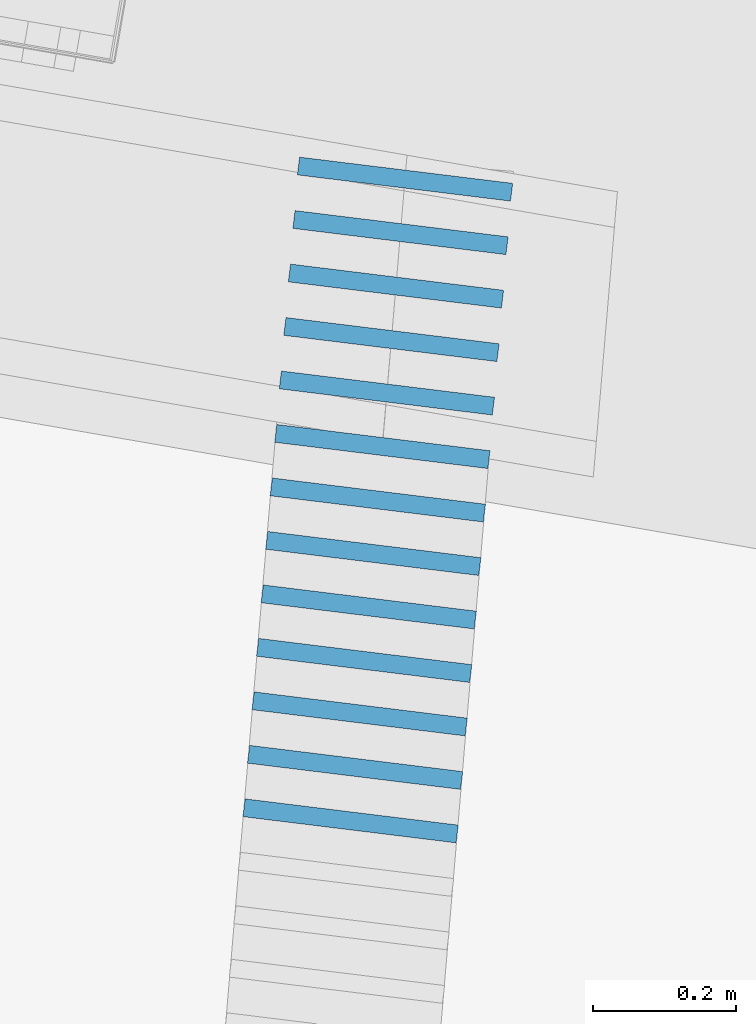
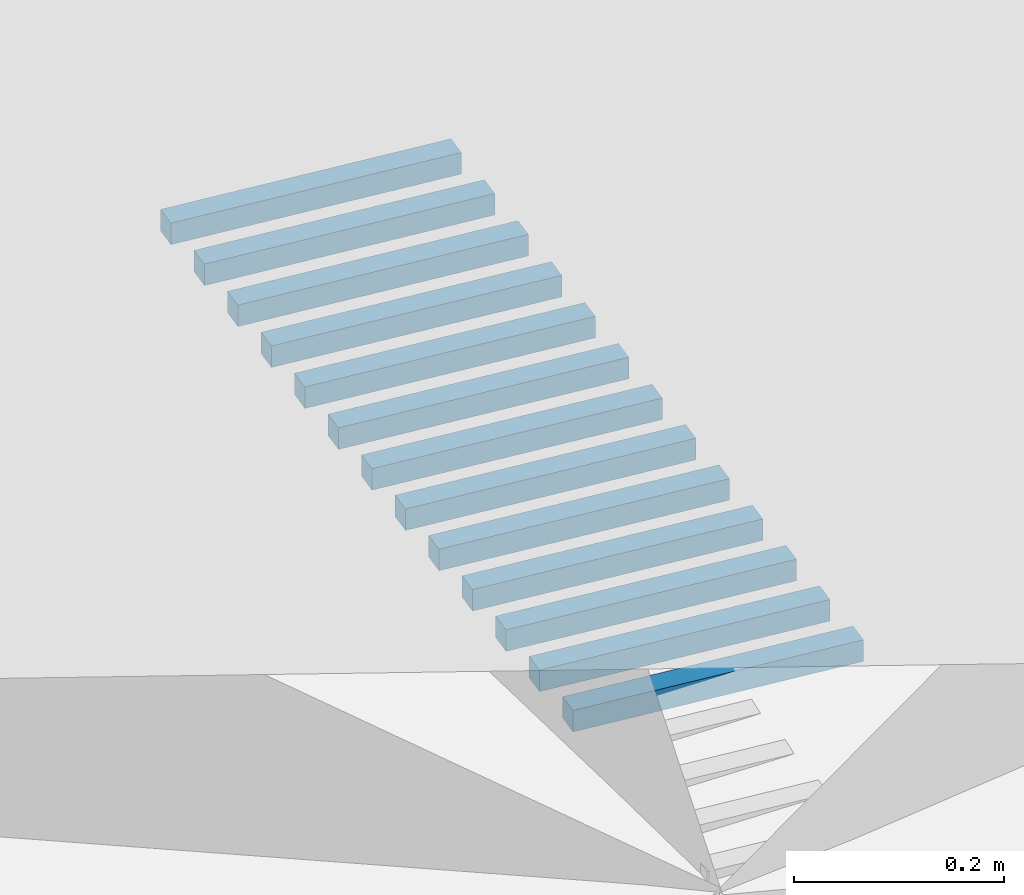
# Not in any storey, part 4 of 46: 13 members.
"""IFC4 model written with IfcOpenShell, lengths in metres."""

from ifc_helpers import new_model, si_unit, direction, frame, origin_with_axes, place, context, subcontext, project, spatial, rectangle, extrude, material, material_profile, profile_set, profile_usage, type_object, element, save


model = new_model("IFC4")

# Units and contexts
model_context = context("Model", 3, precision=1e-05, world=origin_with_axes(), true_north=direction((0.0, 1.0)))
body_context = subcontext(model_context, "Body", "Model", "MODEL_VIEW")
ifc_project = project(units=[si_unit("VOLUMEUNIT", "CUBIC_METRE"), si_unit("LENGTHUNIT", "METRE"), si_unit("AREAUNIT", "SQUARE_METRE")], contexts=[model_context])

# Site
site_placement = place(None, origin_with_axes())
site = spatial("IfcSite", under=ifc_project, at=site_placement, Name="Lares · Rua das Mercês · artigo 4771")

# Members
ifc_material = material(Name="Aço galvanizado / Stahl verzinkt", Category="steel")
ifc_material_profile = material_profile(ifc_material, rectangle(XDim=0.025, YDim=0.025))
ifc_profile_set = profile_set([ifc_material_profile], Name="R0.025")
ifc_profile_usage_1 = profile_usage(ifc_profile_set)
member_type = type_object("IfcMemberType", Name="R0.025 / galvanized", PredefinedType="NOTDEFINED", material=ifc_profile_set)
member_1_placement = place(site_placement, frame((82.7192237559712, 5.17432462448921, 16.1922898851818), z_axis=(0.992517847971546, -0.122099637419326, 0.0), x_axis=(-0.122099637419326, -0.992517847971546, 0.0)))
element("IfcMember", 1, at=member_1_placement, inside=site, type_object=member_type, material=ifc_profile_usage_1, Name="Interceção · grelha rua", context=body_context, shape_type="SweptSolid", body=[
    extrude(rectangle(XDim=0.025, YDim=0.025), origin_with_axes(), (0.0, 0.0, 1.0), 0.299999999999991),
])
ifc_profile_usage_2 = profile_usage(ifc_profile_set)
member_2_placement = place(site_placement, frame((82.7255676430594, 5.24905584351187, 16.1915398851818), z_axis=(0.992517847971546, -0.122099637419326, 0.0), x_axis=(-0.122099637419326, -0.992517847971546, 0.0)))
element("IfcMember", 2, at=member_2_placement, inside=site, type_object=member_type, material=ifc_profile_usage_2, Name="Interceção · grelha rua", context=body_context, shape_type="SweptSolid", body=[
    extrude(rectangle(XDim=0.025, YDim=0.025), origin_with_axes(), (0.0, 0.0, 1.0), 0.299999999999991),
])
ifc_profile_usage_3 = profile_usage(ifc_profile_set)
member_3_placement = place(site_placement, frame((82.7319115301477, 5.32378706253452, 16.1907898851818), z_axis=(0.992517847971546, -0.122099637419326, 0.0), x_axis=(-0.122099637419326, -0.992517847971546, 0.0)))
element("IfcMember", 3, at=member_3_placement, inside=site, type_object=member_type, material=ifc_profile_usage_3, Name="Interceção · grelha rua", context=body_context, shape_type="SweptSolid", body=[
    extrude(rectangle(XDim=0.025, YDim=0.025), origin_with_axes(), (0.0, 0.0, 1.0), 0.299999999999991),
])
ifc_profile_usage_4 = profile_usage(ifc_profile_set)
member_4_placement = place(site_placement, frame((82.7382554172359, 5.39851828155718, 16.1900398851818), z_axis=(0.992517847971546, -0.122099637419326, 0.0), x_axis=(-0.122099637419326, -0.992517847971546, 0.0)))
element("IfcMember", 4, at=member_4_placement, inside=site, type_object=member_type, material=ifc_profile_usage_4, Name="Interceção · grelha rua", context=body_context, shape_type="SweptSolid", body=[
    extrude(rectangle(XDim=0.025, YDim=0.025), origin_with_axes(), (0.0, 0.0, 1.0), 0.299999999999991),
])
ifc_profile_usage_5 = profile_usage(ifc_profile_set)
member_5_placement = place(site_placement, frame((82.7445993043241, 5.47324950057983, 16.1892898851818), z_axis=(0.992517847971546, -0.122099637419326, 0.0), x_axis=(-0.122099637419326, -0.992517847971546, 0.0)))
element("IfcMember", 5, at=member_5_placement, inside=site, type_object=member_type, material=ifc_profile_usage_5, Name="Interceção · grelha rua", context=body_context, shape_type="SweptSolid", body=[
    extrude(rectangle(XDim=0.025, YDim=0.025), origin_with_axes(), (0.0, 0.0, 1.0), 0.299999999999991),
])
ifc_profile_usage_6 = profile_usage(ifc_profile_set)
member_6_placement = place(site_placement, frame((82.7509431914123, 5.54798071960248, 16.1885398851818), z_axis=(0.992517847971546, -0.122099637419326, 0.0), x_axis=(-0.122099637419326, -0.992517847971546, 0.0)))
element("IfcMember", 6, at=member_6_placement, inside=site, type_object=member_type, material=ifc_profile_usage_6, Name="Interceção · grelha rua", context=body_context, shape_type="SweptSolid", body=[
    extrude(rectangle(XDim=0.025, YDim=0.025), origin_with_axes(), (0.0, 0.0, 1.0), 0.299999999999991),
])
ifc_profile_usage_7 = profile_usage(ifc_profile_set)
member_7_placement = place(site_placement, frame((82.7572870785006, 5.62271193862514, 16.1877898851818), z_axis=(0.992517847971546, -0.122099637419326, 0.0), x_axis=(-0.122099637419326, -0.992517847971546, 0.0)))
element("IfcMember", 7, at=member_7_placement, inside=site, type_object=member_type, material=ifc_profile_usage_7, Name="Interceção · grelha rua", context=body_context, shape_type="SweptSolid", body=[
    extrude(rectangle(XDim=0.025, YDim=0.025), origin_with_axes(), (0.0, 0.0, 1.0), 0.299999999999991),
])
ifc_profile_usage_8 = profile_usage(ifc_profile_set)
member_8_placement = place(site_placement, frame((82.7636309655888, 5.69744315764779, 16.1875545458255), z_axis=(0.992517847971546, -0.122099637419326, 0.0), x_axis=(-0.122099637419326, -0.992517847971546, 0.0)))
element("IfcMember", 8, at=member_8_placement, inside=site, type_object=member_type, material=ifc_profile_usage_8, Name="Interceção · grelha rua", context=body_context, shape_type="SweptSolid", body=[
    extrude(rectangle(XDim=0.025, YDim=0.025), origin_with_axes(), (0.0, 0.0, 1.0), 0.299999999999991),
])
ifc_profile_usage_9 = profile_usage(ifc_profile_set)
member_9_placement = place(site_placement, frame((82.769974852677, 5.77217437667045, 16.1875545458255), z_axis=(0.992517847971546, -0.122099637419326, 0.0), x_axis=(-0.122099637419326, -0.992517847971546, 0.0)))
element("IfcMember", 9, at=member_9_placement, inside=site, type_object=member_type, material=ifc_profile_usage_9, Name="Interceção · grelha rua", context=body_context, shape_type="SweptSolid", body=[
    extrude(rectangle(XDim=0.025, YDim=0.025), origin_with_axes(), (0.0, 0.0, 1.0), 0.299999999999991),
])
ifc_profile_usage_10 = profile_usage(ifc_profile_set)
member_10_placement = place(site_placement, frame((82.7763187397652, 5.8469055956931, 16.1875545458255), z_axis=(0.992517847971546, -0.122099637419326, 0.0), x_axis=(-0.122099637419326, -0.992517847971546, 0.0)))
element("IfcMember", 10, at=member_10_placement, inside=site, type_object=member_type, material=ifc_profile_usage_10, Name="Interceção · grelha rua", context=body_context, shape_type="SweptSolid", body=[
    extrude(rectangle(XDim=0.025, YDim=0.025), origin_with_axes(), (0.0, 0.0, 1.0), 0.299999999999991),
])
ifc_profile_usage_11 = profile_usage(ifc_profile_set)
member_11_placement = place(site_placement, frame((82.7826626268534, 5.92163681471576, 16.1875545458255), z_axis=(0.992517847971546, -0.122099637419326, 0.0), x_axis=(-0.122099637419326, -0.992517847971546, 0.0)))
element("IfcMember", 11, at=member_11_placement, inside=site, type_object=member_type, material=ifc_profile_usage_11, Name="Interceção · grelha rua", context=body_context, shape_type="SweptSolid", body=[
    extrude(rectangle(XDim=0.025, YDim=0.025), origin_with_axes(), (0.0, 0.0, 1.0), 0.299999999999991),
])
ifc_profile_usage_12 = profile_usage(ifc_profile_set)
member_12_placement = place(site_placement, frame((82.7890065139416, 5.99636803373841, 16.1875545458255), z_axis=(0.992517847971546, -0.122099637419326, 0.0), x_axis=(-0.122099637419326, -0.992517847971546, 0.0)))
element("IfcMember", 12, at=member_12_placement, inside=site, type_object=member_type, material=ifc_profile_usage_12, Name="Interceção · grelha rua", context=body_context, shape_type="SweptSolid", body=[
    extrude(rectangle(XDim=0.025, YDim=0.025), origin_with_axes(), (0.0, 0.0, 1.0), 0.299999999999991),
])
ifc_profile_usage_13 = profile_usage(ifc_profile_set)
member_13_placement = place(site_placement, frame((82.7953504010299, 6.07109925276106, 16.1875545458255), z_axis=(0.992517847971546, -0.122099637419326, 0.0), x_axis=(-0.122099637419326, -0.992517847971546, 0.0)))
element("IfcMember", 13, at=member_13_placement, inside=site, type_object=member_type, material=ifc_profile_usage_13, Name="Interceção · grelha rua", context=body_context, shape_type="SweptSolid", body=[
    extrude(rectangle(XDim=0.025, YDim=0.025), origin_with_axes(), (0.0, 0.0, 1.0), 0.299999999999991),
])

save(model, "model.ifc")
